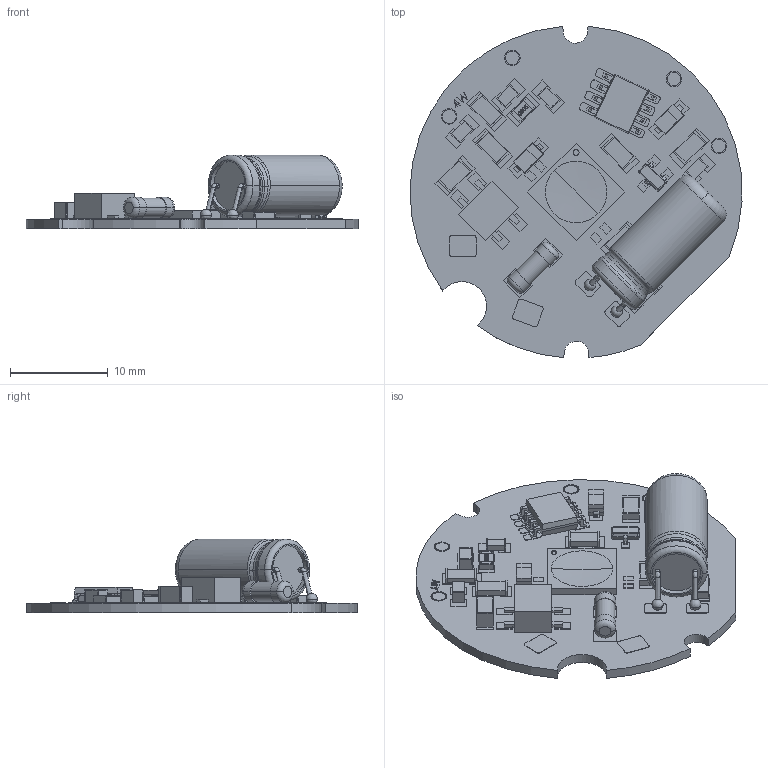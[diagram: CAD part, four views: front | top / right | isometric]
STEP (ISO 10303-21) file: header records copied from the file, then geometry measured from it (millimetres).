
FILE_DESCRIPTION(('Creo Elements/Direct Modeling STEP Export'),'2;1');
FILE_NAME('modulo.stp','2022-04-04T14:15:09',(''),(''),'Creo Elements/Direct Modeling STEP processor for AP214 (Solid Model)','Creo Elements/Direct Modeling 20.0E 23-Apr-2019 (C) Parametric Technology GmbH','');
FILE_SCHEMA(('AUTOMOTIVE_DESIGN { 1 0 10303 214 1 1 1 1 }'));
Length unit declared in the file: millimetre
Products named in the file (30): ZD1.1; 0805_R1; DIP D6.3xH12 capacitor; 1206_R8.1; BD MB10S; 1206_R4; WWR 0207; 1206_R6; ¹s¥ó5; 1206_R9; p1; p2; p3; p4; p5; p6; 7070 LED; 1206_R3; IC ES102; 1206_R7; 1206_MOV; sot23-1 (ES111); 0805_C2.1; 0805; 0805_C3; D-12023006-D33-70F
Assembly tree (33 placements, depth 3):
  D-12023006-D33-70F
    0805_C2.1  x2
    ZD1.1  x3
    0805_C3
    0805
      p4
      p3
      p2
      p1
    sot23-1 (ES111)
    1206_R8.1  x2
    1206_MOV
    1206_R7
    IC ES102
    1206_R3
    7070 LED
      p6
      p5
      p4
      p3
      p2
      p1
    1206_R9
    ¹s¥ó5
    1206_R6
    WWR 0207
    1206_R4
    BD MB10S
    DIP D6.3xH12 capacitor
    0805_R1
Bounding box: 33.97 x 33.91 x 7.55 mm (x, y, z)
Volume: 1501.9 mm3; surface area: 2953.5 mm2
Topology: 31 solids, 31 shells, 1312 faces, 3277 edges, 2140 vertices
Faces by surface type: plane 953, cylinder 266, bspline 73, torus 8, extrusion 8, sphere 4
Entity records: 40928 total; most frequent: CARTESIAN_POINT 11277, ORIENTED_EDGE 5994, DIRECTION 5653, EDGE_CURVE 2997, VECTOR 2307, LINE 2299, VERTEX_POINT 1968, AXIS2_PLACEMENT_3D 1673
